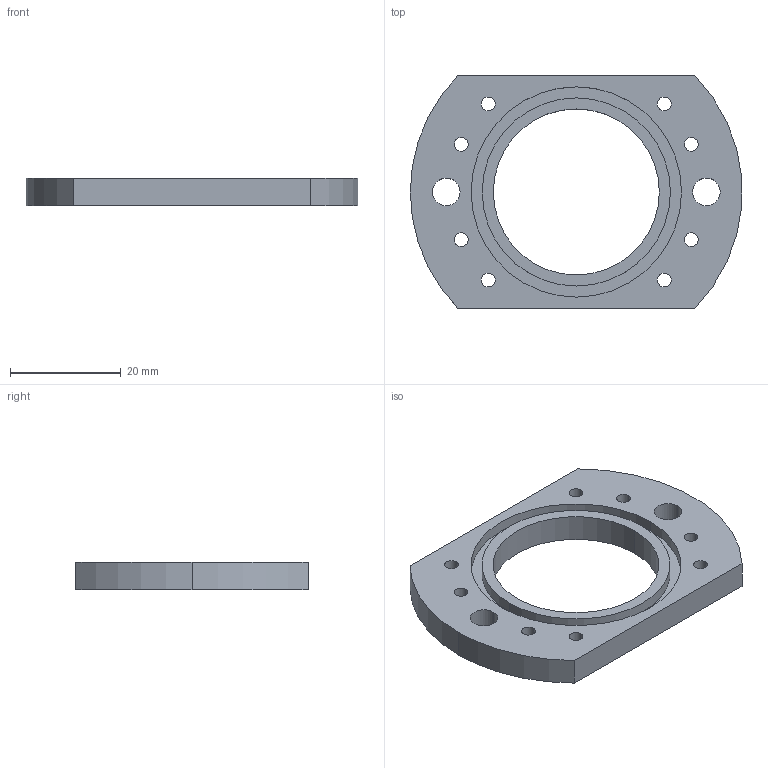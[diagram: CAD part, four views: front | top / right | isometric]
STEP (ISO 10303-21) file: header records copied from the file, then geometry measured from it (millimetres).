
FILE_DESCRIPTION (( 'STEP AP214' ), '1' );
FILE_NAME ('2026_3_2_サブプレート.STEP', '2026-03-14T11:43:35', ( '' ), ( '' ), 'SwSTEP 2.0', 'SolidWorks 2025', '' );
FILE_SCHEMA (( 'AUTOMOTIVE_DESIGN' ));
Length unit declared in the file: millimetre
Products named in the file (1): 2026_3_2_サブプレート
Bounding box: 59.89 x 42 x 5 mm (x, y, z)
Volume: 7098.3 mm3; surface area: 5308.9 mm2
Topology: 1 solids, 1 shells, 35 faces, 93 edges, 62 vertices
Faces by surface type: cylinder 29, plane 6
Entity records: 1412 total; most frequent: DIRECTION 223, CARTESIAN_POINT 191, ORIENTED_EDGE 186, AXIS2_PLACEMENT_3D 94, EDGE_CURVE 93, VERTEX_POINT 62, EDGE_LOOP 59, CIRCLE 58
